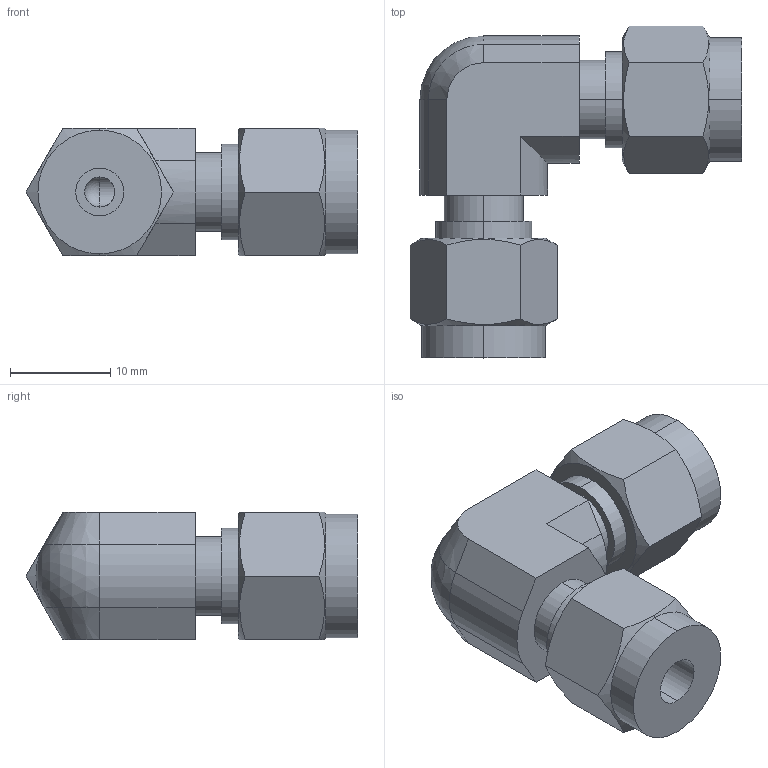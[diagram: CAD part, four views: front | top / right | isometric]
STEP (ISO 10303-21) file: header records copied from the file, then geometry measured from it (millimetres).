
FILE_DESCRIPTION (( 'STEP AP203' ), '1' );
FILE_NAME ('DLA03 SS.STEP', '2009-10-26T06:02:19', ( ' ' ), ( '' ), 'SwSTEP 2.0', 'SolidWorks 2008', '' );
FILE_SCHEMA (( 'CONFIG_CONTROL_DESIGN' ));
Length unit declared in the file: millimetre
Products named in the file (1): DLA03 SS
Bounding box: 33.03 x 33.03 x 12.7 mm (x, y, z)
Volume: 5499.2 mm3; surface area: 3232 mm2
Topology: 1 solids, 1 shells, 68 faces, 164 edges, 104 vertices
Faces by surface type: plane 32, cylinder 24, cone 10, sphere 2
Entity records: 2217 total; most frequent: CARTESIAN_POINT 593, ORIENTED_EDGE 320, DIRECTION 316, EDGE_CURVE 160, AXIS2_PLACEMENT_3D 121, VERTEX_POINT 102, EDGE_LOOP 78, VECTOR 74
